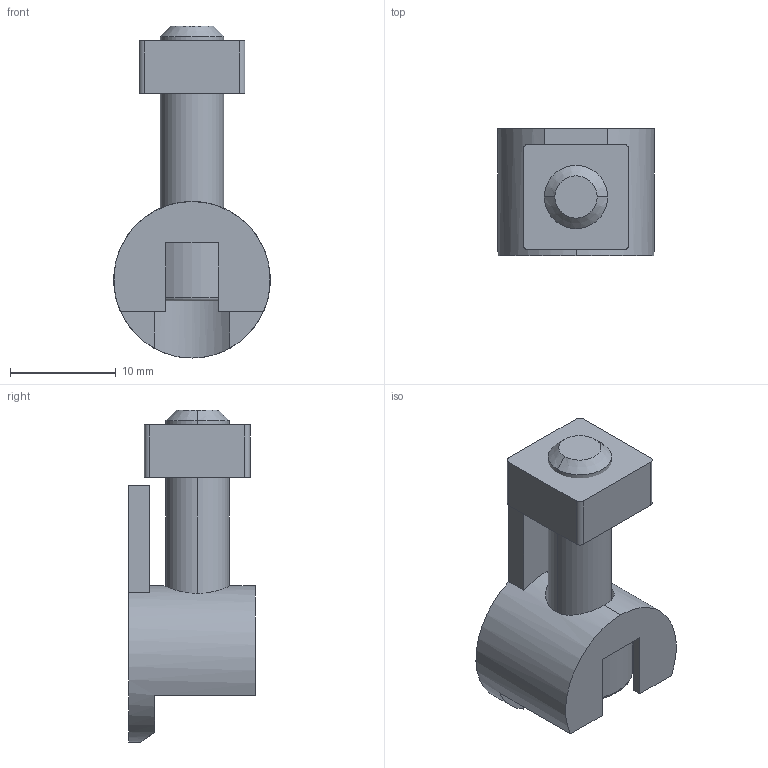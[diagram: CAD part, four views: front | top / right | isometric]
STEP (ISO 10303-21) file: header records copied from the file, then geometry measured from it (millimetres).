
FILE_DESCRIPTION (( 'STEP AP214' ), '1' );
FILE_NAME ('J3F.step', '2017-05-24T07:45:34', ( 'admin' ), ( '' ), 'SwSTEP 2.0', 'SolidWorks 2014', '' );
FILE_SCHEMA (( 'AUTOMOTIVE_DESIGN' ));
Length unit declared in the file: millimetre
Products named in the file (4): J3F; J3FH; J3N6; C0620
Assembly tree (3 placements, depth 2):
  J3F
    J3FH
    C0620
    J3N6
Bounding box: 14.79 x 12 x 31.4 mm (x, y, z)
Volume: 2349.7 mm3; surface area: 2397.7 mm2
Topology: 3 solids, 3 shells, 57 faces, 141 edges, 89 vertices
Faces by surface type: plane 35, cylinder 16, cone 4, torus 2
Entity records: 1954 total; most frequent: CARTESIAN_POINT 377, DIRECTION 308, ORIENTED_EDGE 278, EDGE_CURVE 139, AXIS2_PLACEMENT_3D 112, VERTEX_POINT 89, VECTOR 84, LINE 84
